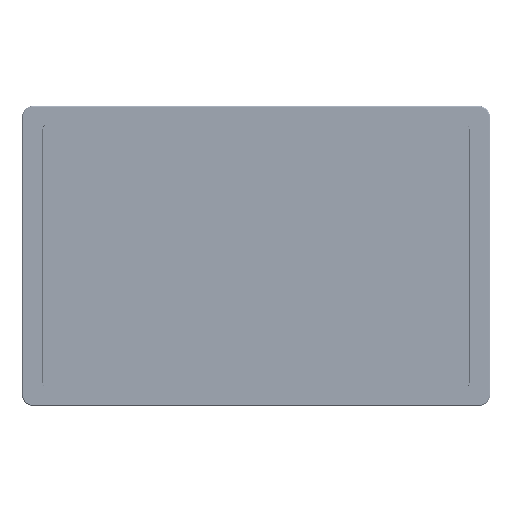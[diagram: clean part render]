
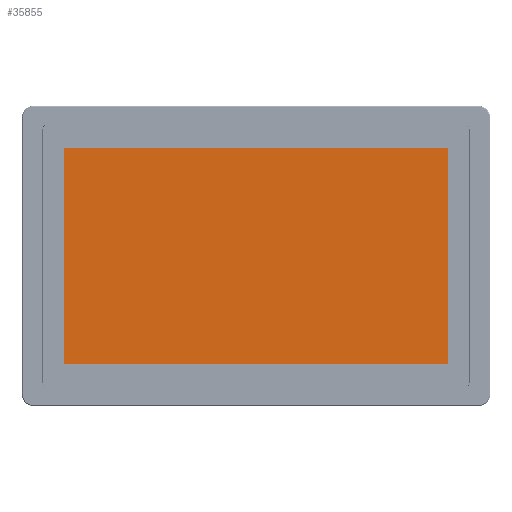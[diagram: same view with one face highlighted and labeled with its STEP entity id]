
A CAD part, top view. The second image highlights one B-rep face of the part: STEP entity #35855.
In plain terms, the highlighted planar face has unit normal (0, 0, 1).
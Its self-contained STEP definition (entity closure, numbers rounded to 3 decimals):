
#5791=PLANE('',#265121);
#35855=ADVANCED_FACE('',(#51451),#5791,.T.);
#51451=FACE_OUTER_BOUND('',#67115,.T.);
#67115=EDGE_LOOP('',(#113443,#113444,#113445,#113446));
#113443=ORIENTED_EDGE('',*,*,#197836,.T.);
#113444=ORIENTED_EDGE('',*,*,#197846,.T.);
#113445=ORIENTED_EDGE('',*,*,#197843,.T.);
#113446=ORIENTED_EDGE('',*,*,#197840,.T.);
#168910=VERTEX_POINT('',#491561);
#168911=VERTEX_POINT('',#491562);
#168914=VERTEX_POINT('',#491570);
#168916=VERTEX_POINT('',#491576);
#197836=EDGE_CURVE('',#168910,#168911,#224741,.T.);
#197840=EDGE_CURVE('',#168914,#168910,#224745,.T.);
#197843=EDGE_CURVE('',#168916,#168914,#224748,.T.);
#197846=EDGE_CURVE('',#168911,#168916,#224751,.T.);
#224741=LINE('',#491560,#242543);
#224745=LINE('',#491569,#242547);
#224748=LINE('',#491575,#242550);
#224751=LINE('',#491581,#242553);
#242543=VECTOR('',#298315,1.);
#242547=VECTOR('',#298321,1.);
#242550=VECTOR('',#298326,1.);
#242553=VECTOR('',#298331,1.);
#265121=AXIS2_PLACEMENT_3D('',#491585,#298337,#298338);
#298315=DIRECTION('',(0.,-1.,0.));
#298321=DIRECTION('',(-1.,0.,0.));
#298326=DIRECTION('',(0.,1.,0.));
#298331=DIRECTION('',(1.,0.,0.));
#298337=DIRECTION('',(0.,0.,1.));
#298338=DIRECTION('',(1.,0.,0.));
#491560=CARTESIAN_POINT('',(-110.,84.377,13.25));
#491561=CARTESIAN_POINT('',(-110.,84.377,13.25));
#491562=CARTESIAN_POINT('',(-110.,-108.823,13.25));
#491569=CARTESIAN_POINT('',(-110.,84.377,13.25));
#491570=CARTESIAN_POINT('',(234.,84.377,13.25));
#491575=CARTESIAN_POINT('',(234.,84.377,13.25));
#491576=CARTESIAN_POINT('',(234.,-108.823,13.25));
#491581=CARTESIAN_POINT('',(-110.,-108.823,13.25));
#491585=CARTESIAN_POINT('',(62.,-12.223,13.25));
